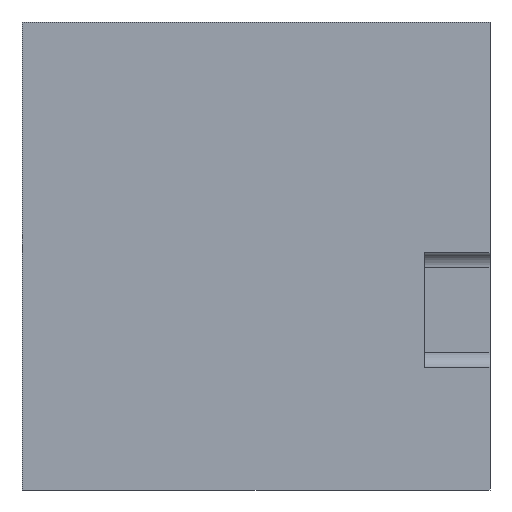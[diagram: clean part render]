
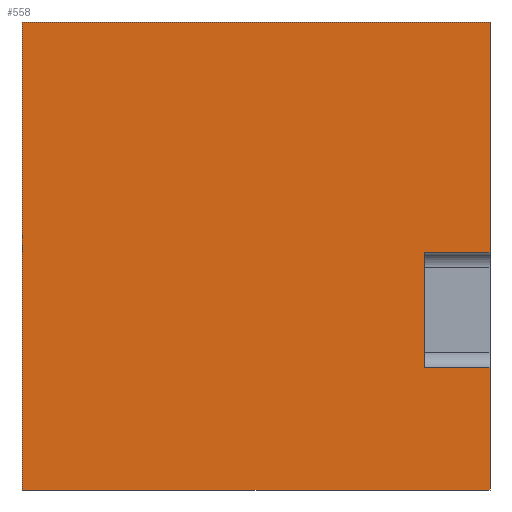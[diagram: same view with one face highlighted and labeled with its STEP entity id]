
A CAD part, front view. The second image highlights one B-rep face of the part: STEP entity #558.
In plain terms, the highlighted planar face has unit normal (0, -1, 0).
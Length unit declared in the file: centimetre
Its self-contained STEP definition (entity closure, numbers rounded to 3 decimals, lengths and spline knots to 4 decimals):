
#25 = EDGE_CURVE ( 'NONE', #916, #850, #232, .T. ) ;
#34 = LINE ( 'NONE', #508, #204 ) ;
#46 = EDGE_CURVE ( 'NONE', #579, #106, #816, .T. ) ;
#52 = CARTESIAN_POINT ( 'NONE',  ( 0., 0., 0. ) ) ;
#57 = VECTOR ( 'NONE', #1096, 100. ) ;
#59 = DIRECTION ( 'NONE',  ( 0., 0., -1. ) ) ;
#76 = LINE ( 'NONE', #1043, #1266 ) ;
#106 = VERTEX_POINT ( 'NONE', #411 ) ;
#108 = CARTESIAN_POINT ( 'NONE',  ( 0., 0., 1000. ) ) ;
#126 = CARTESIAN_POINT ( 'NONE',  ( 859.8787, 0., 1000. ) ) ;
#163 = EDGE_CURVE ( 'NONE', #981, #850, #166, .T. ) ;
#166 = LINE ( 'NONE', #755, #679 ) ;
#200 = VECTOR ( 'NONE', #1224, 100. ) ;
#204 = VECTOR ( 'NONE', #901, 100. ) ;
#205 = VECTOR ( 'NONE', #997, 100. ) ;
#213 = CARTESIAN_POINT ( 'NONE',  ( 859.8787, 0., 261.4702 ) ) ;
#215 = CARTESIAN_POINT ( 'NONE',  ( 1000., 0., 1000. ) ) ;
#232 = LINE ( 'NONE', #322, #1217 ) ;
#316 = ORIENTED_EDGE ( 'NONE', *, *, #585, .T. ) ;
#322 = CARTESIAN_POINT ( 'NONE',  ( 859.8787, 0., 506.5618 ) ) ;
#374 = EDGE_LOOP ( 'NONE', ( #950, #1045, #316, #865, #758, #1068, #1186, #546 ) ) ;
#411 = CARTESIAN_POINT ( 'NONE',  ( 1000., 0., 0. ) ) ;
#413 = LINE ( 'NONE', #915, #57 ) ;
#489 = AXIS2_PLACEMENT_3D ( 'NONE', #108, #496, #1072 ) ;
#496 = DIRECTION ( 'NONE',  ( 0., 1., 0. ) ) ;
#508 = CARTESIAN_POINT ( 'NONE',  ( 0., 0., 1000. ) ) ;
#524 = DIRECTION ( 'NONE',  ( 1., 0., 0. ) ) ;
#525 = DIRECTION ( 'NONE',  ( 0., 0., 1. ) ) ;
#546 = ORIENTED_EDGE ( 'NONE', *, *, #792, .T. ) ;
#558 = ADVANCED_FACE ( 'NONE', ( #1075 ), #988, .F. ) ;
#579 = VERTEX_POINT ( 'NONE', #1222 ) ;
#585 = EDGE_CURVE ( 'NONE', #760, #916, #1115, .T. ) ;
#635 = EDGE_CURVE ( 'NONE', #775, #756, #34, .T. ) ;
#671 = CARTESIAN_POINT ( 'NONE',  ( 859.8787, 0., 261.4702 ) ) ;
#679 = VECTOR ( 'NONE', #59, 100. ) ;
#755 = CARTESIAN_POINT ( 'NONE',  ( 1000., 0., 1000. ) ) ;
#756 = VERTEX_POINT ( 'NONE', #52 ) ;
#758 = ORIENTED_EDGE ( 'NONE', *, *, #163, .F. ) ;
#760 = VERTEX_POINT ( 'NONE', #671 ) ;
#775 = VERTEX_POINT ( 'NONE', #1251 ) ;
#792 = EDGE_CURVE ( 'NONE', #756, #106, #76, .T. ) ;
#797 = LINE ( 'NONE', #213, #200 ) ;
#816 = LINE ( 'NONE', #215, #205 ) ;
#850 = VERTEX_POINT ( 'NONE', #955 ) ;
#856 = DIRECTION ( 'NONE',  ( 1., 0., 0. ) ) ;
#865 = ORIENTED_EDGE ( 'NONE', *, *, #25, .T. ) ;
#901 = DIRECTION ( 'NONE',  ( 0., 0., -1. ) ) ;
#915 = CARTESIAN_POINT ( 'NONE',  ( 0., 0., 1000. ) ) ;
#916 = VERTEX_POINT ( 'NONE', #1089 ) ;
#950 = ORIENTED_EDGE ( 'NONE', *, *, #46, .F. ) ;
#955 = CARTESIAN_POINT ( 'NONE',  ( 1000., 0., 506.5618 ) ) ;
#981 = VERTEX_POINT ( 'NONE', #1073 ) ;
#988 = PLANE ( 'NONE',  #489 ) ;
#997 = DIRECTION ( 'NONE',  ( 0., 0., -1. ) ) ;
#1043 = CARTESIAN_POINT ( 'NONE',  ( 0., 0., 0. ) ) ;
#1045 = ORIENTED_EDGE ( 'NONE', *, *, #1233, .T. ) ;
#1068 = ORIENTED_EDGE ( 'NONE', *, *, #1102, .F. ) ;
#1072 = DIRECTION ( 'NONE',  ( 0., 0., 1. ) ) ;
#1073 = CARTESIAN_POINT ( 'NONE',  ( 1000., 0., 1000. ) ) ;
#1075 = FACE_OUTER_BOUND ( 'NONE', #374, .T. ) ;
#1089 = CARTESIAN_POINT ( 'NONE',  ( 859.8787, 0., 506.5618 ) ) ;
#1096 = DIRECTION ( 'NONE',  ( 1., 0., 0. ) ) ;
#1102 = EDGE_CURVE ( 'NONE', #775, #981, #413, .T. ) ;
#1115 = LINE ( 'NONE', #126, #1214 ) ;
#1186 = ORIENTED_EDGE ( 'NONE', *, *, #635, .T. ) ;
#1214 = VECTOR ( 'NONE', #525, 100. ) ;
#1217 = VECTOR ( 'NONE', #524, 100. ) ;
#1222 = CARTESIAN_POINT ( 'NONE',  ( 1000., 0., 261.4702 ) ) ;
#1224 = DIRECTION ( 'NONE',  ( -1., 0., 0. ) ) ;
#1233 = EDGE_CURVE ( 'NONE', #579, #760, #797, .T. ) ;
#1251 = CARTESIAN_POINT ( 'NONE',  ( 0., 0., 1000. ) ) ;
#1266 = VECTOR ( 'NONE', #856, 100. ) ;
